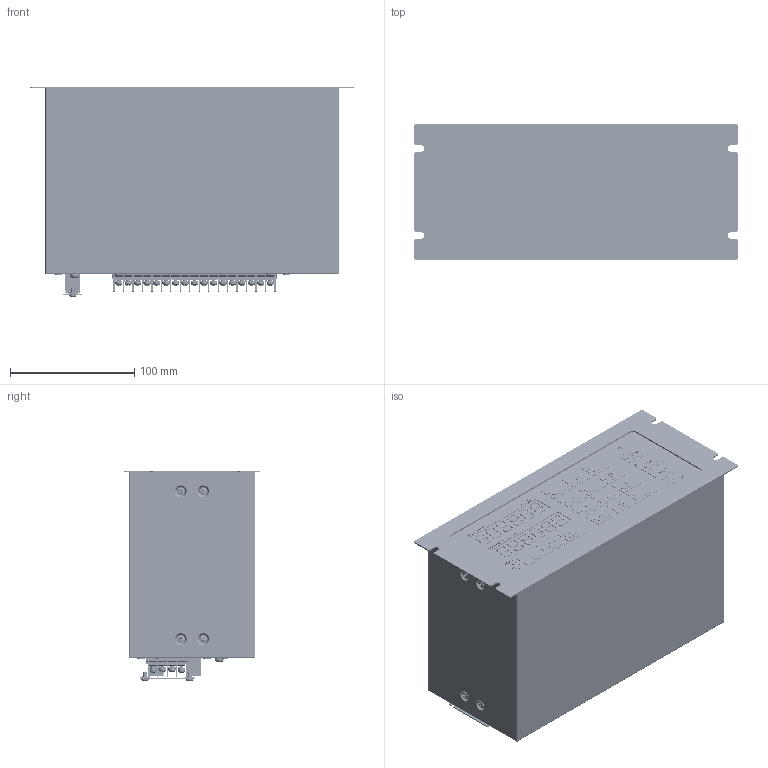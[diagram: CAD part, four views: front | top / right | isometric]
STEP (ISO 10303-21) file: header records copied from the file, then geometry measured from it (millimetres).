
FILE_DESCRIPTION (( 'STEP AP214' ), '1' );
FILE_NAME ('OPR-42_Assem1.STEP', '2024-08-21T01:55:06', ( '' ), ( '' ), 'SwSTEP 2.0', 'SolidWorks 2023', '' );
FILE_SCHEMA (( 'AUTOMOTIVE_DESIGN' ));
Length unit declared in the file: millimetre
Products named in the file (30): 固定端子台_4P_Assem; OPR-42_Assem1; M3スプリングワッシャ_1mm厚; FCN-360取付スペーサー小Part; FCN-360_40P_male; 固定端子台_15P_Assem; M3ネジ_Assem; 固定端子台_押さえL; バインド頭Tap M3 X5 MM; オータックスKSP82; OPR-40ケース下_Part3; SCREW M3 X15 MM; 3mm発光ダイオード; OPR-42_Part1; FCN-360取付スペーサー大Part; 固定端子台_押さえ; M4ワッシャ_1mm厚; 固定端子台_止め; 固定端子台_15P_1; 固定端子台_S止め; OPR-40ケース上_Part2; M4スプリングワッシャ_1mm厚; TERMINAL SCREW M3 X6 MM; 固定端子台_17P_Assem; 固定端子台_17P_1; SCREW M4 X6 MM; 8P_Pin; 絶縁プレート; 固定端子台_4P_1; 小ワッシャ M3
Assembly tree (188 placements, depth 4):
  OPR-42_Assem1
    OPR-42_Part1
    8P_Pin
    FCN-360_40P_male  x2
    FCN-360取付スペーサー大Part  x2
    FCN-360取付スペーサー小Part  x2
    3mm発光ダイオード  x3
    オータックスKSP82
    M4ワッシャ_1mm厚
    M4スプリングワッシャ_1mm厚
    SCREW M4 X6 MM
    固定端子台_15P_Assem
      固定端子台_15P_1
      固定端子台_止め  x15
      TERMINAL SCREW M3 X6 MM  x15
      固定端子台_押さえ  x15
      M3スプリングワッシャ_1mm厚  x15
    固定端子台_17P_Assem
      固定端子台_17P_1
      固定端子台_止め  x17
      TERMINAL SCREW M3 X6 MM  x17
      固定端子台_押さえ  x17
      M3スプリングワッシャ_1mm厚  x17
    固定端子台_4P_Assem
      固定端子台_4P_1
      固定端子台_S止め  x4
      固定端子台_押さえ  x2
      固定端子台_押さえL  x2
      M3ネジ_Assem  x2
        TERMINAL SCREW M3 X6 MM
        M3スプリングワッシャ_1mm厚
      M3スプリングワッシャ_1mm厚  x2
      小ワッシャ M3  x2
      SCREW M3 X15 MM  x2
      TERMINAL SCREW M3 X6 MM  x2
      絶縁プレート
    OPR-40ケース下_Part3
    OPR-40ケース上_Part2
    バインド頭Tap M3 X5 MM  x16
Bounding box: 260 x 110 x 169.75 mm (x, y, z)
Volume: 1304613.9 mm3; surface area: 452143.5 mm2
Topology: 187 solids, 187 shells, 13836 faces, 38020 edges, 25347 vertices
Faces by surface type: plane 11291, cylinder 1338, bspline 790, cone 242, torus 137, sphere 38
Entity records: 335079 total; most frequent: CARTESIAN_POINT 69688, ORIENTED_EDGE 57294, DIRECTION 49548, EDGE_CURVE 28647, LINE 25756, VECTOR 25756, VERTEX_POINT 19042, AXIS2_PLACEMENT_3D 11896
